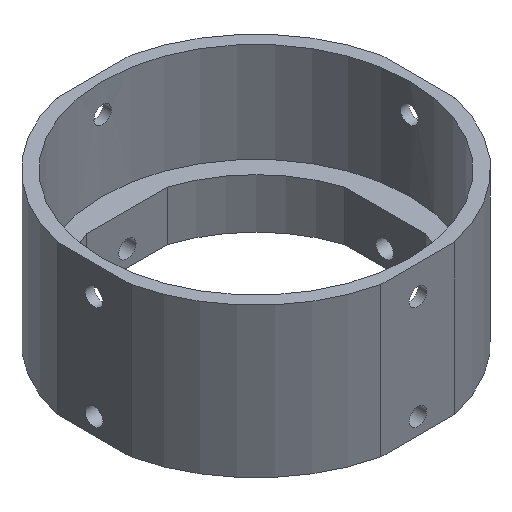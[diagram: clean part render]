
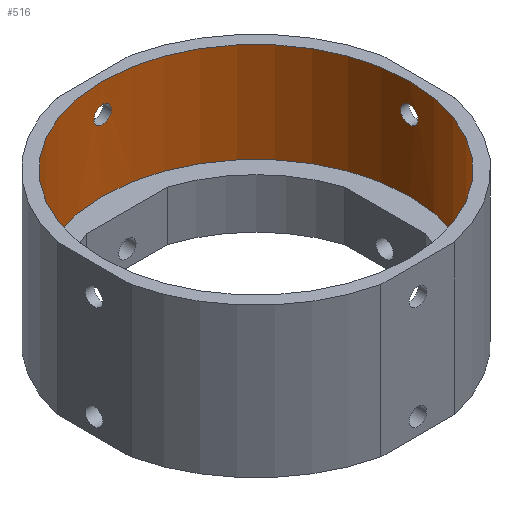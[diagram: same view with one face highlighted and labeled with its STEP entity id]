
A CAD part, isometric view. The second image highlights one B-rep face of the part: STEP entity #516.
In plain terms, the highlighted cylindrical face has radius 37 mm (diameter 74 mm), a full revolution.
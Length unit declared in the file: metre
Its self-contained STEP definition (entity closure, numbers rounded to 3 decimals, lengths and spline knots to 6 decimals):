
#12=B_SPLINE_CURVE_WITH_KNOTS('',3,(#873,#874,#875,#876,#877,#878,#879,
#880,#881,#882,#883),.UNSPECIFIED.,.T.,.F.,(1,1,1,1,1,1,1,1,1,1,1,1,1,1,
1),(-0.004925,-0.003283,-0.001642,0.,
0.001642,0.003283,0.004925,0.006566,
0.008208,0.009849,0.011491,0.013132,
0.014774,0.016415,0.018057),.UNSPECIFIED.);
#13=B_SPLINE_CURVE_WITH_KNOTS('',3,(#885,#886,#887,#888,#889,#890,#891,
#892,#893,#894,#895),.UNSPECIFIED.,.T.,.F.,(1,1,1,1,1,1,1,1,1,1,1,1,1,1,
1),(-0.004925,-0.003283,-0.001642,0.,
0.001642,0.003283,0.004925,0.006566,
0.008208,0.009849,0.011491,0.013132,
0.014774,0.016415,0.018057),.UNSPECIFIED.);
#14=B_SPLINE_CURVE_WITH_KNOTS('',3,(#897,#898,#899,#900,#901,#902,#903,
#904,#905,#906,#907),.UNSPECIFIED.,.T.,.F.,(1,1,1,1,1,1,1,1,1,1,1,1,1,1,
1),(-0.004925,-0.003283,-0.001642,0.,
0.001642,0.003283,0.004925,0.006566,
0.008208,0.009849,0.011491,0.013132,
0.014774,0.016415,0.018057),.UNSPECIFIED.);
#15=B_SPLINE_CURVE_WITH_KNOTS('',3,(#909,#910,#911,#912,#913,#914,#915,
#916,#917,#918,#919),.UNSPECIFIED.,.T.,.F.,(1,1,1,1,1,1,1,1,1,1,1,1,1,1,
1),(-0.004925,-0.003283,-0.001642,0.,
0.001642,0.003283,0.004925,0.006566,
0.008208,0.009849,0.011491,0.013132,
0.014774,0.016415,0.018057),.UNSPECIFIED.);
#55=CIRCLE('',#584,0.037);
#56=CIRCLE('',#587,0.037);
#158=ORIENTED_EDGE('',*,*,#250,.T.);
#159=ORIENTED_EDGE('',*,*,#251,.T.);
#160=ORIENTED_EDGE('',*,*,#252,.T.);
#161=ORIENTED_EDGE('',*,*,#253,.T.);
#162=ORIENTED_EDGE('',*,*,#254,.F.);
#163=ORIENTED_EDGE('',*,*,#249,.T.);
#249=EDGE_CURVE('',#299,#299,#55,.T.);
#250=EDGE_CURVE('',#300,#300,#12,.T.);
#251=EDGE_CURVE('',#301,#301,#13,.T.);
#252=EDGE_CURVE('',#302,#302,#14,.T.);
#253=EDGE_CURVE('',#303,#303,#15,.T.);
#254=EDGE_CURVE('',#304,#304,#56,.T.);
#299=VERTEX_POINT('',#870);
#300=VERTEX_POINT('',#884);
#301=VERTEX_POINT('',#896);
#302=VERTEX_POINT('',#908);
#303=VERTEX_POINT('',#920);
#304=VERTEX_POINT('',#922);
#401=EDGE_LOOP('',(#158));
#402=EDGE_LOOP('',(#159));
#403=EDGE_LOOP('',(#160));
#404=EDGE_LOOP('',(#161));
#405=EDGE_LOOP('',(#162));
#406=EDGE_LOOP('',(#163));
#457=FACE_BOUND('',#401,.T.);
#458=FACE_BOUND('',#402,.T.);
#459=FACE_BOUND('',#403,.T.);
#460=FACE_BOUND('',#404,.T.);
#461=FACE_BOUND('',#405,.T.);
#462=FACE_BOUND('',#406,.T.);
#489=CYLINDRICAL_SURFACE('',#586,0.037);
#516=ADVANCED_FACE('',(#457,#458,#459,#460,#461,#462),#489,.F.);
#584=AXIS2_PLACEMENT_3D('',#869,#721,#722);
#586=AXIS2_PLACEMENT_3D('',#872,#725,#726);
#587=AXIS2_PLACEMENT_3D('',#921,#727,#728);
#721=DIRECTION('',(0.,0.,1.));
#722=DIRECTION('',(1.,0.,0.));
#725=DIRECTION('',(0.,0.,1.));
#726=DIRECTION('',(1.,0.,0.));
#727=DIRECTION('',(0.,0.,1.));
#728=DIRECTION('',(1.,0.,0.));
#869=CARTESIAN_POINT('',(0.,0.,0.036));
#870=CARTESIAN_POINT('',(0.037,0.,0.036));
#872=CARTESIAN_POINT('',(0.,0.,0.012));
#873=CARTESIAN_POINT('',(0.03697,-0.001647,0.027356));
#874=CARTESIAN_POINT('',(0.037015,0.,0.026672));
#875=CARTESIAN_POINT('',(0.03697,0.001646,0.027355));
#876=CARTESIAN_POINT('',(0.036925,0.002327,0.028998));
#877=CARTESIAN_POINT('',(0.03697,0.001647,0.030645));
#878=CARTESIAN_POINT('',(0.037015,0.,0.031327));
#879=CARTESIAN_POINT('',(0.03697,-0.001643,0.030647));
#880=CARTESIAN_POINT('',(0.036925,-0.002327,0.029002));
#881=CARTESIAN_POINT('',(0.03697,-0.001647,0.027356));
#882=CARTESIAN_POINT('',(0.037015,0.,0.026672));
#883=CARTESIAN_POINT('',(0.03697,0.001646,0.027355));
#884=CARTESIAN_POINT('',(0.037,0.,0.0269));
#885=CARTESIAN_POINT('',(-0.03697,-0.001647,0.030644));
#886=CARTESIAN_POINT('',(-0.037015,0.,0.031328));
#887=CARTESIAN_POINT('',(-0.03697,0.001646,0.030645));
#888=CARTESIAN_POINT('',(-0.036925,0.002327,0.029002));
#889=CARTESIAN_POINT('',(-0.03697,0.001647,0.027355));
#890=CARTESIAN_POINT('',(-0.037015,0.,0.026673));
#891=CARTESIAN_POINT('',(-0.03697,-0.001643,0.027353));
#892=CARTESIAN_POINT('',(-0.036925,-0.002327,0.028998));
#893=CARTESIAN_POINT('',(-0.03697,-0.001647,0.030644));
#894=CARTESIAN_POINT('',(-0.037015,0.,0.031328));
#895=CARTESIAN_POINT('',(-0.03697,0.001646,0.030645));
#896=CARTESIAN_POINT('',(-0.037,0.,0.0311));
#897=CARTESIAN_POINT('',(0.001647,-0.03697,0.030644));
#898=CARTESIAN_POINT('',(0.,-0.037015,0.031328));
#899=CARTESIAN_POINT('',(-0.001646,-0.03697,0.030645));
#900=CARTESIAN_POINT('',(-0.002327,-0.036925,0.029002));
#901=CARTESIAN_POINT('',(-0.001647,-0.03697,0.027355));
#902=CARTESIAN_POINT('',(0.,-0.037015,0.026673));
#903=CARTESIAN_POINT('',(0.001643,-0.03697,0.027353));
#904=CARTESIAN_POINT('',(0.002327,-0.036925,0.028998));
#905=CARTESIAN_POINT('',(0.001647,-0.03697,0.030644));
#906=CARTESIAN_POINT('',(0.,-0.037015,0.031328));
#907=CARTESIAN_POINT('',(-0.001646,-0.03697,0.030645));
#908=CARTESIAN_POINT('',(0.,-0.037,0.0311));
#909=CARTESIAN_POINT('',(-0.001647,0.03697,0.030644));
#910=CARTESIAN_POINT('',(0.,0.037015,0.031328));
#911=CARTESIAN_POINT('',(0.001646,0.03697,0.030645));
#912=CARTESIAN_POINT('',(0.002327,0.036925,0.029002));
#913=CARTESIAN_POINT('',(0.001647,0.03697,0.027355));
#914=CARTESIAN_POINT('',(0.,0.037015,0.026673));
#915=CARTESIAN_POINT('',(-0.001643,0.03697,0.027353));
#916=CARTESIAN_POINT('',(-0.002327,0.036925,0.028998));
#917=CARTESIAN_POINT('',(-0.001647,0.03697,0.030644));
#918=CARTESIAN_POINT('',(0.,0.037015,0.031328));
#919=CARTESIAN_POINT('',(0.001646,0.03697,0.030645));
#920=CARTESIAN_POINT('',(0.,0.037,0.0311));
#921=CARTESIAN_POINT('',(0.,0.,0.012));
#922=CARTESIAN_POINT('',(0.037,0.,0.012));
